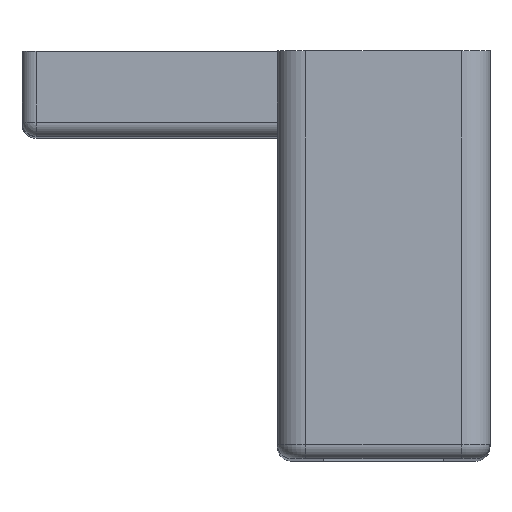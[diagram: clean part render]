
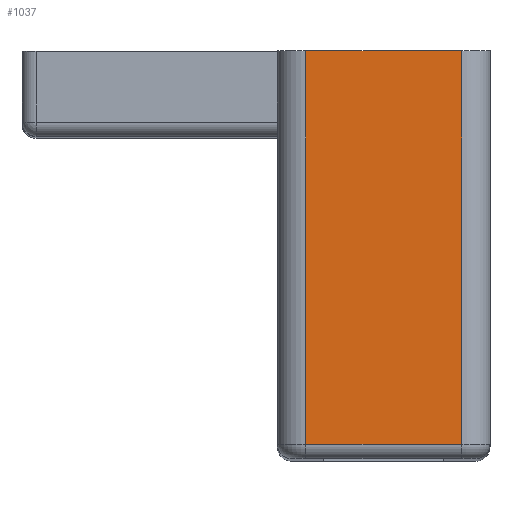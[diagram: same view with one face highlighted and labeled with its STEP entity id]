
A CAD part, top view. The second image highlights one B-rep face of the part: STEP entity #1037.
In plain terms, the highlighted planar face has unit normal (0, 0, 1).
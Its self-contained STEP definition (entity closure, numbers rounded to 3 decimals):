
#32 = AXIS2_PLACEMENT_3D ( 'NONE', #798, #847, #846 ) ;
#64 = EDGE_CURVE ( 'NONE', #1147, #1149, #231, .T. ) ;
#85 = EDGE_CURVE ( 'NONE', #1147, #1079, #205, .T. ) ;
#137 = EDGE_CURVE ( 'NONE', #1149, #1083, #1456, .T. ) ;
#155 = EDGE_CURVE ( 'NONE', #1079, #1083, #1422, .T. ) ;
#205 = LINE ( 'NONE', #1214, #209 ) ;
#209 = VECTOR ( 'NONE', #1215, 1000. ) ;
#226 = VECTOR ( 'NONE', #1165, 1000. ) ;
#231 = LINE ( 'NONE', #1155, #226 ) ;
#267 = EDGE_LOOP ( 'NONE', ( #371, #372, #373, #374 ) ) ;
#371 = ORIENTED_EDGE ( 'NONE', *, *, #85, .F. ) ;
#372 = ORIENTED_EDGE ( 'NONE', *, *, #64, .T. ) ;
#373 = ORIENTED_EDGE ( 'NONE', *, *, #137, .T. ) ;
#374 = ORIENTED_EDGE ( 'NONE', *, *, #155, .F. ) ;
#570 = DIRECTION ( 'NONE',  ( 0., 1., 0. ) ) ;
#571 = CARTESIAN_POINT ( 'NONE',  ( 5.5, 0., 98.5 ) ) ;
#631 = CARTESIAN_POINT ( 'NONE',  ( -5.5, 28.75, 98.5 ) ) ;
#632 = DIRECTION ( 'NONE',  ( 1., 0., 0. ) ) ;
#791 = PLANE ( 'NONE',  #32 ) ;
#798 = CARTESIAN_POINT ( 'NONE',  ( -5.5, 0., 98.5 ) ) ;
#846 = DIRECTION ( 'NONE',  ( 0., -1., 0. ) ) ;
#847 = DIRECTION ( 'NONE',  ( 0., 0., 1. ) ) ;
#912 = CARTESIAN_POINT ( 'NONE',  ( 5.5, 28.75, 98.5 ) ) ;
#916 = CARTESIAN_POINT ( 'NONE',  ( -5.5, 28.75, 98.5 ) ) ;
#950 = CARTESIAN_POINT ( 'NONE',  ( 5.5, 1., 98.5 ) ) ;
#955 = CARTESIAN_POINT ( 'NONE',  ( -5.5, 1., 98.5 ) ) ;
#1037 = ADVANCED_FACE ( 'NONE', ( #1303 ), #791, .T. ) ;
#1079 = VERTEX_POINT ( 'NONE', #916 ) ;
#1083 = VERTEX_POINT ( 'NONE', #912 ) ;
#1147 = VERTEX_POINT ( 'NONE', #955 ) ;
#1149 = VERTEX_POINT ( 'NONE', #950 ) ;
#1155 = CARTESIAN_POINT ( 'NONE',  ( -5.5, 1., 98.5 ) ) ;
#1165 = DIRECTION ( 'NONE',  ( 1., 0., 0. ) ) ;
#1214 = CARTESIAN_POINT ( 'NONE',  ( -5.5, 0., 98.5 ) ) ;
#1215 = DIRECTION ( 'NONE',  ( 0., 1., 0. ) ) ;
#1303 = FACE_OUTER_BOUND ( 'NONE', #267, .T. ) ;
#1421 = VECTOR ( 'NONE', #632, 1000. ) ;
#1422 = LINE ( 'NONE', #631, #1421 ) ;
#1454 = VECTOR ( 'NONE', #570, 1000. ) ;
#1456 = LINE ( 'NONE', #571, #1454 ) ;
